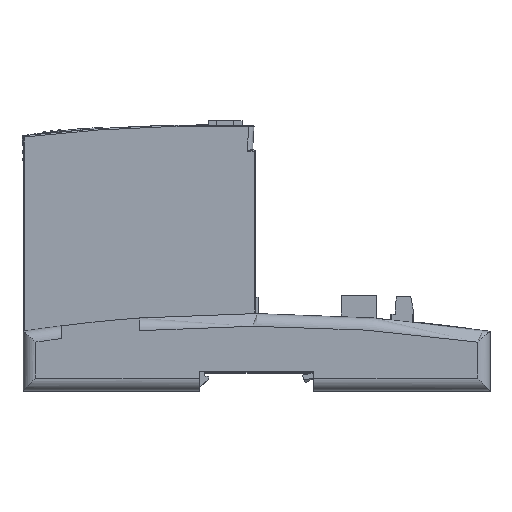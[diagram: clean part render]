
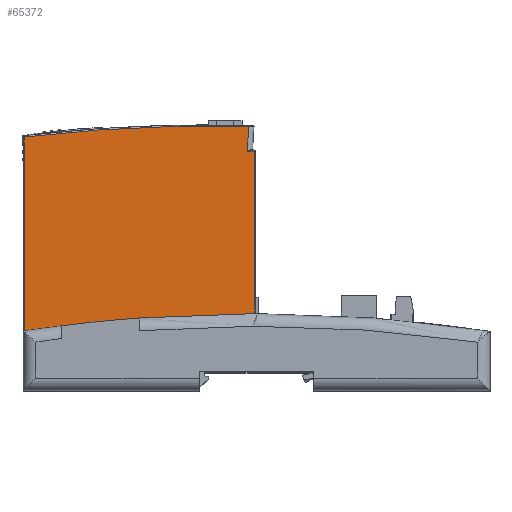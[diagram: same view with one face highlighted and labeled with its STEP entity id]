
A CAD part, top view. The second image highlights one B-rep face of the part: STEP entity #65372.
In plain terms, the highlighted planar face has unit normal (0, 0, 1).
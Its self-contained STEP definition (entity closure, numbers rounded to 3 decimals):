
#14761=DIRECTION('',(0.,1.,0.));
#14762=VECTOR('',#14761,2.4);
#14763=CARTESIAN_POINT('',(152.7,18.7,-0.2));
#14764=LINE('',#14763,#14762);
#14833=DIRECTION('',(1.,0.,-0.001));
#14834=VECTOR('',#14833,3.);
#14835=CARTESIAN_POINT('',(30.6,21.1,-0.2));
#14836=LINE('',#14835,#14834);
#14837=DIRECTION('',(-1.,0.,0.));
#14838=VECTOR('',#14837,25.);
#14839=CARTESIAN_POINT('',(28.6,21.1,-0.203));
#14840=LINE('',#14839,#14838);
#14841=DIRECTION('',(0.,1.,0.));
#14842=VECTOR('',#14841,2.);
#14843=CARTESIAN_POINT('',(3.6,21.1,-0.203));
#14844=LINE('',#14843,#14842);
#14845=CARTESIAN_POINT('',(71.564,-497.429,-0.205));
#14846=DIRECTION('',(0.,0.,-1.));
#14847=DIRECTION('',(-0.118,0.993,0.));
#14848=AXIS2_PLACEMENT_3D('',#14845,#14846,#14847);
#14850=CARTESIAN_POINT('',(178.6,92.8,-0.205));
#14851=DIRECTION('',(0.,0.,1.));
#14852=DIRECTION('',(-0.995,0.099,0.));
#14853=AXIS2_PLACEMENT_3D('',#14850,#14851,#14852);
#14855=DIRECTION('',(1.,0.,0.));
#14856=VECTOR('',#14855,2.499);
#14857=CARTESIAN_POINT('',(86.601,92.3,
-0.204));
#14858=LINE('',#14857,#14856);
#14859=DIRECTION('',(0.,-1.,0.));
#14860=VECTOR('',#14859,71.2);
#14861=CARTESIAN_POINT('',(89.1,92.3,-0.204));
#14862=LINE('',#14861,#14860);
#14863=DIRECTION('',(1.,0.,0.));
#14864=VECTOR('',#14863,63.6);
#14865=CARTESIAN_POINT('',(89.1,21.1,-0.203));
#14866=LINE('',#14865,#14864);
#14867=DIRECTION('',(-1.,0.,0.));
#14868=VECTOR('',#14867,122.1);
#14869=CARTESIAN_POINT('',(152.7,18.7,-0.2));
#14870=LINE('',#14869,#14868);
#14871=DIRECTION('',(0.,1.,0.));
#14872=VECTOR('',#14871,2.4);
#14873=CARTESIAN_POINT('',(30.6,18.7,-0.2));
#14874=LINE('',#14873,#14872);
#14879=DIRECTION('',(0.,-1.,0.001));
#14880=VECTOR('',#14879,2.);
#14881=CARTESIAN_POINT('',(33.6,23.1,-0.203));
#14882=LINE('',#14881,#14880);
#15949=CARTESIAN_POINT('',(86.601,92.3,
-0.204));
#16060=DIRECTION('',(0.,-1.,0.));
#16061=VECTOR('',#16060,74.756);
#16062=CARTESIAN_POINT('',(0.6,97.856,-0.204));
#16063=LINE('',#16062,#16061);
#16069=DIRECTION('',(1.,0.,0.));
#16070=VECTOR('',#16069,3.);
#16071=CARTESIAN_POINT('',(0.6,23.1,-0.203));
#16072=LINE('',#16071,#16070);
#16138=DIRECTION('',(0.,1.,0.));
#16139=VECTOR('',#16138,2.);
#16140=CARTESIAN_POINT('',(28.6,21.1,-0.203));
#16141=LINE('',#16140,#16139);
#16146=DIRECTION('',(1.,0.,0.));
#16147=VECTOR('',#16146,5.);
#16148=CARTESIAN_POINT('',(28.6,23.1,-0.203));
#16149=LINE('',#16148,#16147);
#35883=CARTESIAN_POINT('',(30.6,18.7,-0.2));
#35884=VERTEX_POINT('',#35883);
#35953=CARTESIAN_POINT('',(30.6,21.1,-0.2));
#35955=VERTEX_POINT('',#35953);
#35981=CARTESIAN_POINT('',(152.7,18.7,-0.2));
#35982=VERTEX_POINT('',#35981);
#35983=CARTESIAN_POINT('',(152.7,21.1,-0.2));
#35984=VERTEX_POINT('',#35983);
#37720=CARTESIAN_POINT('',(3.6,21.1,-0.203));
#37722=VERTEX_POINT('',#37720);
#37725=CARTESIAN_POINT('',(28.6,21.1,-0.203));
#37727=VERTEX_POINT('',#37725);
#37730=CARTESIAN_POINT('',(3.6,23.1,-0.203));
#37732=VERTEX_POINT('',#37730);
#39133=CARTESIAN_POINT('',(0.6,97.856,-0.205));
#39134=VERTEX_POINT('',#39133);
#39135=CARTESIAN_POINT('',(87.048,101.871,-0.205));
#39136=VERTEX_POINT('',#39135);
#39141=VERTEX_POINT('',#15949);
#39142=CARTESIAN_POINT('',(89.1,92.3,-0.205));
#39143=VERTEX_POINT('',#39142);
#39144=CARTESIAN_POINT('',(28.6,23.1,-0.203));
#39145=CARTESIAN_POINT('',(33.6,23.1,-0.203));
#39146=VERTEX_POINT('',#39144);
#39147=VERTEX_POINT('',#39145);
#39148=CARTESIAN_POINT('',(0.6,23.1,-0.203));
#39149=VERTEX_POINT('',#39148);
#43280=CARTESIAN_POINT('',(89.1,21.1,-0.205));
#43281=VERTEX_POINT('',#43280);
#43298=CARTESIAN_POINT('',(33.6,21.1,-0.202));
#43299=VERTEX_POINT('',#43298);
#65337=CARTESIAN_POINT('',(91.65,19.9,-0.2));
#65338=DIRECTION('',(0.,0.,1.));
#65339=DIRECTION('',(1.,0.,0.));
#65340=AXIS2_PLACEMENT_3D('',#65337,#65338,#65339);
#65341=PLANE('',#65340);
#65342=ORIENTED_EDGE('',*,*,#46294,.T.);
#65344=ORIENTED_EDGE('',*,*,#65343,.F.);
#65346=ORIENTED_EDGE('',*,*,#65345,.F.);
#65348=ORIENTED_EDGE('',*,*,#65347,.F.);
#65350=ORIENTED_EDGE('',*,*,#65349,.T.);
#65352=ORIENTED_EDGE('',*,*,#65351,.T.);
#65354=ORIENTED_EDGE('',*,*,#65353,.F.);
#65356=ORIENTED_EDGE('',*,*,#65355,.F.);
#65358=ORIENTED_EDGE('',*,*,#65357,.T.);
#65360=ORIENTED_EDGE('',*,*,#65359,.T.);
#65362=ORIENTED_EDGE('',*,*,#65361,.T.);
#65364=ORIENTED_EDGE('',*,*,#65363,.T.);
#65365=ORIENTED_EDGE('',*,*,#46280,.T.);
#65366=ORIENTED_EDGE('',*,*,#65248,.F.);
#65367=ORIENTED_EDGE('',*,*,#46611,.T.);
#65369=ORIENTED_EDGE('',*,*,#65368,.T.);
#65370=EDGE_LOOP('',(#65342,#65344,#65346,#65348,#65350,#65352,#65354,#65356,
#65358,#65360,#65362,#65364,#65365,#65366,#65367,#65369));
#65371=FACE_OUTER_BOUND('',#65370,.F.);
#14849=CIRCLE('',#14848,599.5);
#14854=CIRCLE('',#14853,92.);
#46280=EDGE_CURVE('',#43281,#35984,#14866,.T.);
#46294=EDGE_CURVE('',#35955,#43299,#14836,.T.);
#46611=EDGE_CURVE('',#35982,#35884,#14870,.T.);
#65248=EDGE_CURVE('',#35982,#35984,#14764,.T.);
#65343=EDGE_CURVE('',#39147,#43299,#14882,.T.);
#65345=EDGE_CURVE('',#39146,#39147,#16149,.T.);
#65347=EDGE_CURVE('',#37727,#39146,#16141,.T.);
#65349=EDGE_CURVE('',#37727,#37722,#14840,.T.);
#65351=EDGE_CURVE('',#37722,#37732,#14844,.T.);
#65353=EDGE_CURVE('',#39149,#37732,#16072,.T.);
#65355=EDGE_CURVE('',#39134,#39149,#16063,.T.);
#65357=EDGE_CURVE('',#39134,#39136,#14849,.T.);
#65359=EDGE_CURVE('',#39136,#39141,#14854,.T.);
#65361=EDGE_CURVE('',#39141,#39143,#14858,.T.);
#65363=EDGE_CURVE('',#39143,#43281,#14862,.T.);
#65368=EDGE_CURVE('',#35884,#35955,#14874,.T.);
#65372=ADVANCED_FACE('',(#65371),#65341,.T.);
